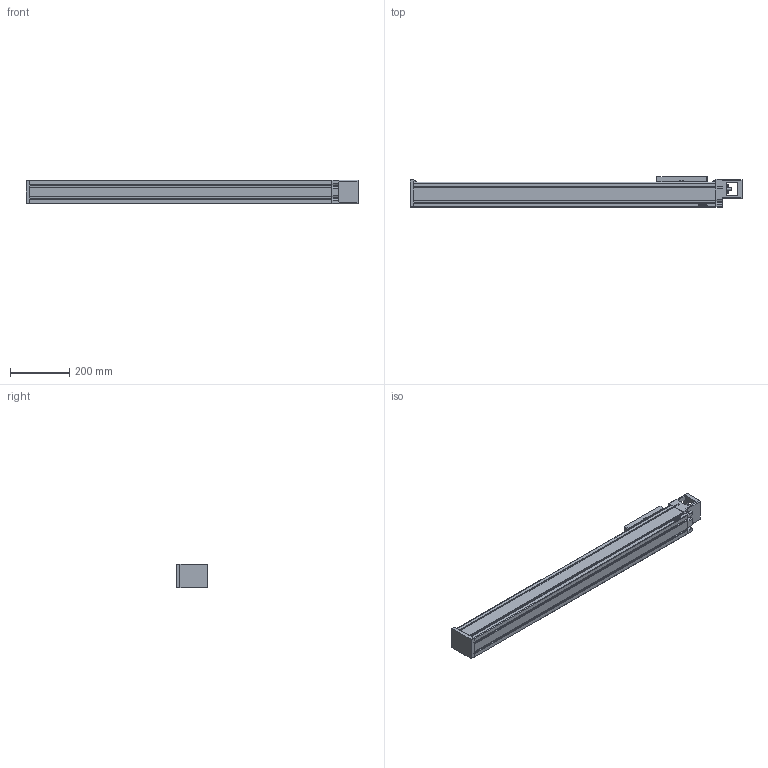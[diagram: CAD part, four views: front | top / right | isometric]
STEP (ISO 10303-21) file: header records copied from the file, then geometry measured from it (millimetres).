
FILE_DESCRIPTION(/* description */ (''),/* implementation_level */ '2;1');
FILE_NAME(/* name */ 'D:\混合母檔20191031\混和母檔\混和母檔\bin\Debug\Download\3D\KU80-10C-800AF0\KU80-10C-800AF0.stp',/* time_stamp */ '2019-11-04T17:09:33+08:00',/* author */ ('user'),/* organization */ (''),/* preprocessor_version */ 'ST-DEVELOPER v16.13',/* originating_system */ 'Autodesk Inventor 2018',/* authorisation */ '');
FILE_SCHEMA (('AUTOMOTIVE_DESIGN { 1 0 10303 214 3 1 1 }'));
Length unit declared in the file: millimetre
Products named in the file (3): KU80-10C-800AF0; KU80-F0-BP; KU80-SL
Assembly tree (2 placements, depth 2):
  KU80-10C-800AF0
    KU80-F0-BP
    KU80-SL
Bounding box: 1120 x 103 x 80 mm (x, y, z)
Volume: 7053638.7 mm3; surface area: 600829.3 mm2
Topology: 2 solids, 10 shells, 862 faces, 2315 edges, 1508 vertices
Faces by surface type: plane 509, bspline 136, cylinder 104, cone 81, torus 28, sphere 4
Full cylindrical faces by diameter (mm): 2.459 x4, 2.729 x4, 3 x4, 3.242 x4, 3.5 x4, 4.134 x16, 5 x4, 5.5 x8, 5.6 x2, 8 x1, 8.5 x4, 12 x1, 46.5 x1
Entity records: 27990 total; most frequent: CARTESIAN_POINT 7413, ORIENTED_EDGE 4362, DIRECTION 3790, EDGE_CURVE 2181, VERTEX_POINT 1469, LINE 1298, VECTOR 1298, AXIS2_PLACEMENT_3D 1246
